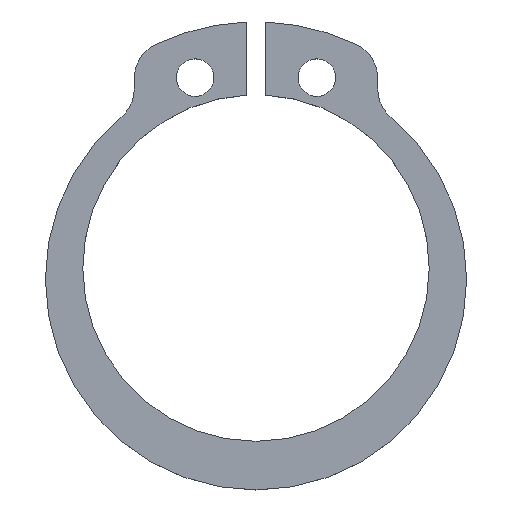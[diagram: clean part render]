
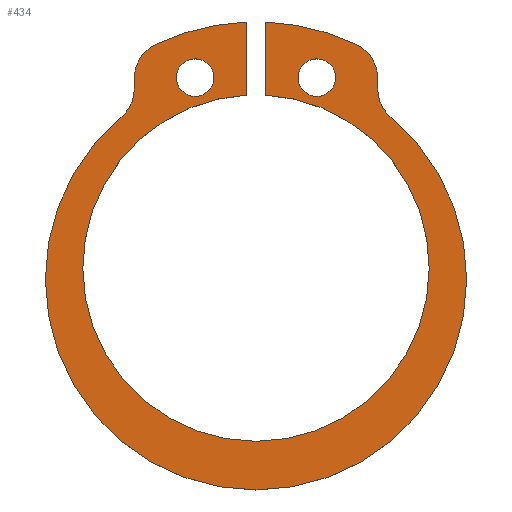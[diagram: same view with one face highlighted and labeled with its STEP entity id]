
A CAD part, top view. The second image highlights one B-rep face of the part: STEP entity #434.
In plain terms, the highlighted planar face has unit normal (0, 0, 1).
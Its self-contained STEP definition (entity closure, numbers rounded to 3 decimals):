
#70=CARTESIAN_POINT('Vertex',(-5.357,11.294,0.6)) ;
#73=CARTESIAN_POINT('Axis2P3D Location',(0.,0.,0.6)) ;
#77=CARTESIAN_POINT('Vertex',(-0.5,12.49,0.6)) ;
#264=CARTESIAN_POINT('Vertex',(-6.5,9.487,0.6)) ;
#267=CARTESIAN_POINT('Axis2P3D Location',(-4.5,9.487,0.6)) ;
#279=CARTESIAN_POINT('Axis2P3D Location',(-8.5,8.914,0.6)) ;
#284=CARTESIAN_POINT('Axis2P3D Location',(-8.5,8.914,0.6)) ;
#288=CARTESIAN_POINT('Vertex',(-7.217,7.38,0.6)) ;
#290=CARTESIAN_POINT('Vertex',(-6.5,8.914,0.6)) ;
#293=CARTESIAN_POINT('Axis2P3D Location',(0.,-1.25,0.6)) ;
#297=CARTESIAN_POINT('Vertex',(-11.25,-1.25,0.6)) ;
#300=CARTESIAN_POINT('Axis2P3D Location',(0.,-1.25,0.6)) ;
#304=CARTESIAN_POINT('Vertex',(11.25,-1.25,0.6)) ;
#307=CARTESIAN_POINT('Axis2P3D Location',(0.,-1.25,0.6)) ;
#311=CARTESIAN_POINT('Vertex',(7.217,7.38,0.6)) ;
#314=CARTESIAN_POINT('Axis2P3D Location',(8.5,8.914,0.6)) ;
#318=CARTESIAN_POINT('Vertex',(6.5,8.914,0.6)) ;
#321=CARTESIAN_POINT('Line Origine',(6.5,9.201,0.6)) ;
#325=CARTESIAN_POINT('Vertex',(6.5,9.487,0.6)) ;
#328=CARTESIAN_POINT('Axis2P3D Location',(4.5,9.487,0.6)) ;
#332=CARTESIAN_POINT('Vertex',(5.357,11.294,0.6)) ;
#335=CARTESIAN_POINT('Axis2P3D Location',(0.,0.,0.6)) ;
#339=CARTESIAN_POINT('Vertex',(0.5,12.49,0.6)) ;
#342=CARTESIAN_POINT('Line Origine',(0.5,10.538,0.6)) ;
#346=CARTESIAN_POINT('Vertex',(0.5,8.586,0.6)) ;
#349=CARTESIAN_POINT('Axis2P3D Location',(0.,-0.65,0.6)) ;
#353=CARTESIAN_POINT('Vertex',(9.25,-0.65,0.6)) ;
#356=CARTESIAN_POINT('Axis2P3D Location',(0.,-0.65,0.6)) ;
#360=CARTESIAN_POINT('Vertex',(-9.25,-0.65,0.6)) ;
#363=CARTESIAN_POINT('Axis2P3D Location',(0.,-0.65,0.6)) ;
#367=CARTESIAN_POINT('Vertex',(-0.5,8.586,0.6)) ;
#370=CARTESIAN_POINT('Line Origine',(-0.5,10.538,0.6)) ;
#375=CARTESIAN_POINT('Line Origine',(-6.5,9.201,0.6)) ;
#398=CARTESIAN_POINT('Axis2P3D Location',(3.25,9.52,0.6)) ;
#402=CARTESIAN_POINT('Vertex',(2.25,9.52,0.6)) ;
#404=CARTESIAN_POINT('Vertex',(4.25,9.52,0.6)) ;
#407=CARTESIAN_POINT('Axis2P3D Location',(3.25,9.52,0.6)) ;
#416=CARTESIAN_POINT('Axis2P3D Location',(-3.25,9.52,0.6)) ;
#420=CARTESIAN_POINT('Vertex',(-4.25,9.52,0.6)) ;
#422=CARTESIAN_POINT('Vertex',(-2.25,9.52,0.6)) ;
#425=CARTESIAN_POINT('Axis2P3D Location',(-3.25,9.52,0.6)) ;
#74=DIRECTION('Axis2P3D Direction',(0.,0.,1.)) ;
#268=DIRECTION('Axis2P3D Direction',(0.,0.,1.)) ;
#280=DIRECTION('Axis2P3D Direction',(0.,0.,1.)) ;
#281=DIRECTION('Axis2P3D XDirection',(1.,0.,-0.)) ;
#285=DIRECTION('Axis2P3D Direction',(0.,0.,1.)) ;
#294=DIRECTION('Axis2P3D Direction',(0.,0.,1.)) ;
#301=DIRECTION('Axis2P3D Direction',(0.,0.,1.)) ;
#308=DIRECTION('Axis2P3D Direction',(0.,0.,1.)) ;
#315=DIRECTION('Axis2P3D Direction',(0.,0.,1.)) ;
#322=DIRECTION('Vector Direction',(0.,1.,0.)) ;
#329=DIRECTION('Axis2P3D Direction',(0.,0.,1.)) ;
#336=DIRECTION('Axis2P3D Direction',(0.,0.,1.)) ;
#343=DIRECTION('Vector Direction',(0.,-1.,0.)) ;
#350=DIRECTION('Axis2P3D Direction',(0.,0.,1.)) ;
#357=DIRECTION('Axis2P3D Direction',(0.,0.,1.)) ;
#364=DIRECTION('Axis2P3D Direction',(0.,0.,1.)) ;
#371=DIRECTION('Vector Direction',(0.,1.,0.)) ;
#376=DIRECTION('Vector Direction',(0.,-1.,0.)) ;
#399=DIRECTION('Axis2P3D Direction',(0.,0.,1.)) ;
#408=DIRECTION('Axis2P3D Direction',(0.,0.,1.)) ;
#417=DIRECTION('Axis2P3D Direction',(0.,0.,1.)) ;
#426=DIRECTION('Axis2P3D Direction',(0.,0.,1.)) ;
#75=AXIS2_PLACEMENT_3D('Circle Axis2P3D',#73,#74,$) ;
#269=AXIS2_PLACEMENT_3D('Circle Axis2P3D',#267,#268,$) ;
#282=AXIS2_PLACEMENT_3D('Plane Axis2P3D',#279,#280,#281) ;
#286=AXIS2_PLACEMENT_3D('Circle Axis2P3D',#284,#285,$) ;
#295=AXIS2_PLACEMENT_3D('Circle Axis2P3D',#293,#294,$) ;
#302=AXIS2_PLACEMENT_3D('Circle Axis2P3D',#300,#301,$) ;
#309=AXIS2_PLACEMENT_3D('Circle Axis2P3D',#307,#308,$) ;
#316=AXIS2_PLACEMENT_3D('Circle Axis2P3D',#314,#315,$) ;
#330=AXIS2_PLACEMENT_3D('Circle Axis2P3D',#328,#329,$) ;
#337=AXIS2_PLACEMENT_3D('Circle Axis2P3D',#335,#336,$) ;
#351=AXIS2_PLACEMENT_3D('Circle Axis2P3D',#349,#350,$) ;
#358=AXIS2_PLACEMENT_3D('Circle Axis2P3D',#356,#357,$) ;
#365=AXIS2_PLACEMENT_3D('Circle Axis2P3D',#363,#364,$) ;
#400=AXIS2_PLACEMENT_3D('Circle Axis2P3D',#398,#399,$) ;
#409=AXIS2_PLACEMENT_3D('Circle Axis2P3D',#407,#408,$) ;
#418=AXIS2_PLACEMENT_3D('Circle Axis2P3D',#416,#417,$) ;
#427=AXIS2_PLACEMENT_3D('Circle Axis2P3D',#425,#426,$) ;
#381=ORIENTED_EDGE('',*,*,#292,.F.) ;
#382=ORIENTED_EDGE('',*,*,#299,.T.) ;
#383=ORIENTED_EDGE('',*,*,#306,.T.) ;
#384=ORIENTED_EDGE('',*,*,#313,.T.) ;
#385=ORIENTED_EDGE('',*,*,#320,.F.) ;
#386=ORIENTED_EDGE('',*,*,#327,.T.) ;
#387=ORIENTED_EDGE('',*,*,#334,.T.) ;
#388=ORIENTED_EDGE('',*,*,#341,.T.) ;
#389=ORIENTED_EDGE('',*,*,#348,.T.) ;
#390=ORIENTED_EDGE('',*,*,#355,.F.) ;
#391=ORIENTED_EDGE('',*,*,#362,.F.) ;
#392=ORIENTED_EDGE('',*,*,#369,.F.) ;
#393=ORIENTED_EDGE('',*,*,#374,.T.) ;
#394=ORIENTED_EDGE('',*,*,#79,.T.) ;
#395=ORIENTED_EDGE('',*,*,#271,.T.) ;
#396=ORIENTED_EDGE('',*,*,#379,.T.) ;
#413=ORIENTED_EDGE('',*,*,#406,.F.) ;
#414=ORIENTED_EDGE('',*,*,#411,.F.) ;
#431=ORIENTED_EDGE('',*,*,#424,.F.) ;
#432=ORIENTED_EDGE('',*,*,#429,.F.) ;
#415=FACE_BOUND('',#412,.T.) ;
#433=FACE_BOUND('',#430,.T.) ;
#323=VECTOR('Line Direction',#322,1.) ;
#344=VECTOR('Line Direction',#343,1.) ;
#372=VECTOR('Line Direction',#371,1.) ;
#377=VECTOR('Line Direction',#376,1.) ;
#434=ADVANCED_FACE('553S-R20',(#397,#415,#433),#283,.T.) ;
#76=CIRCLE('generated circle',#75,12.5) ;
#270=CIRCLE('generated circle',#269,2.) ;
#287=CIRCLE('generated circle',#286,2.) ;
#296=CIRCLE('generated circle',#295,11.25) ;
#303=CIRCLE('generated circle',#302,11.25) ;
#310=CIRCLE('generated circle',#309,11.25) ;
#317=CIRCLE('generated circle',#316,2.) ;
#331=CIRCLE('generated circle',#330,2.) ;
#338=CIRCLE('generated circle',#337,12.5) ;
#352=CIRCLE('generated circle',#351,9.25) ;
#359=CIRCLE('generated circle',#358,9.25) ;
#366=CIRCLE('generated circle',#365,9.25) ;
#401=CIRCLE('generated circle',#400,1.) ;
#410=CIRCLE('generated circle',#409,1.) ;
#419=CIRCLE('generated circle',#418,1.) ;
#428=CIRCLE('generated circle',#427,1.) ;
#79=EDGE_CURVE('',#78,#71,#76,.T.) ;
#271=EDGE_CURVE('',#71,#265,#270,.T.) ;
#292=EDGE_CURVE('',#289,#291,#287,.T.) ;
#299=EDGE_CURVE('',#289,#298,#296,.T.) ;
#306=EDGE_CURVE('',#298,#305,#303,.T.) ;
#313=EDGE_CURVE('',#305,#312,#310,.T.) ;
#320=EDGE_CURVE('',#319,#312,#317,.T.) ;
#327=EDGE_CURVE('',#319,#326,#324,.T.) ;
#334=EDGE_CURVE('',#326,#333,#331,.T.) ;
#341=EDGE_CURVE('',#333,#340,#338,.T.) ;
#348=EDGE_CURVE('',#340,#347,#345,.T.) ;
#355=EDGE_CURVE('',#354,#347,#352,.T.) ;
#362=EDGE_CURVE('',#361,#354,#359,.T.) ;
#369=EDGE_CURVE('',#368,#361,#366,.T.) ;
#374=EDGE_CURVE('',#368,#78,#373,.T.) ;
#379=EDGE_CURVE('',#265,#291,#378,.T.) ;
#406=EDGE_CURVE('',#403,#405,#401,.T.) ;
#411=EDGE_CURVE('',#405,#403,#410,.T.) ;
#424=EDGE_CURVE('',#421,#423,#419,.T.) ;
#429=EDGE_CURVE('',#423,#421,#428,.T.) ;
#380=EDGE_LOOP('',(#381,#382,#383,#384,#385,#386,#387,#388,#389,#390,#391,#392,#393,#394,#395,#396)) ;
#412=EDGE_LOOP('',(#413,#414)) ;
#430=EDGE_LOOP('',(#431,#432)) ;
#397=FACE_OUTER_BOUND('',#380,.T.) ;
#324=LINE('Line',#321,#323) ;
#345=LINE('Line',#342,#344) ;
#373=LINE('Line',#370,#372) ;
#378=LINE('Line',#375,#377) ;
#283=PLANE('Plane',#282) ;
#71=VERTEX_POINT('',#70) ;
#78=VERTEX_POINT('',#77) ;
#265=VERTEX_POINT('',#264) ;
#289=VERTEX_POINT('',#288) ;
#291=VERTEX_POINT('',#290) ;
#298=VERTEX_POINT('',#297) ;
#305=VERTEX_POINT('',#304) ;
#312=VERTEX_POINT('',#311) ;
#319=VERTEX_POINT('',#318) ;
#326=VERTEX_POINT('',#325) ;
#333=VERTEX_POINT('',#332) ;
#340=VERTEX_POINT('',#339) ;
#347=VERTEX_POINT('',#346) ;
#354=VERTEX_POINT('',#353) ;
#361=VERTEX_POINT('',#360) ;
#368=VERTEX_POINT('',#367) ;
#403=VERTEX_POINT('',#402) ;
#405=VERTEX_POINT('',#404) ;
#421=VERTEX_POINT('',#420) ;
#423=VERTEX_POINT('',#422) ;
